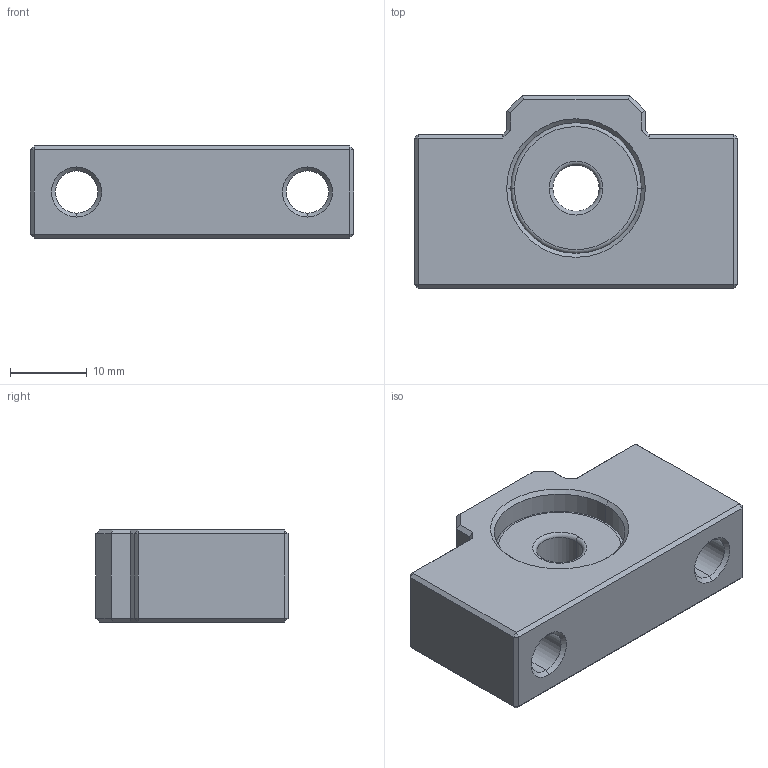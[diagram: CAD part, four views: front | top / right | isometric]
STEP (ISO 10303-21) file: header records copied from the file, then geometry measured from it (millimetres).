
FILE_DESCRIPTION (( 'STEP AP203' ), '1' );
FILE_NAME ('ESGF-6_203.STEP', '2013-02-26T01:28:25', ( '' ), ( '' ), 'SwSTEP 2.0', 'SolidWorks 2012', '' );
FILE_SCHEMA (( 'CONFIG_CONTROL_DESIGN' ));
Length unit declared in the file: millimetre
Products named in the file (1): ESGF-6_203
Bounding box: 42 x 25 x 12 mm (x, y, z)
Volume: 7524.8 mm3; surface area: 4602.4 mm2
Topology: 1 solids, 1 shells, 88 faces, 186 edges, 104 vertices
Faces by surface type: plane 54, cylinder 14, cone 12, torus 8
Entity records: 2375 total; most frequent: DIRECTION 420, CARTESIAN_POINT 379, ORIENTED_EDGE 372, EDGE_CURVE 186, AXIS2_PLACEMENT_3D 145, VECTOR 130, LINE 130, VERTEX_POINT 104
